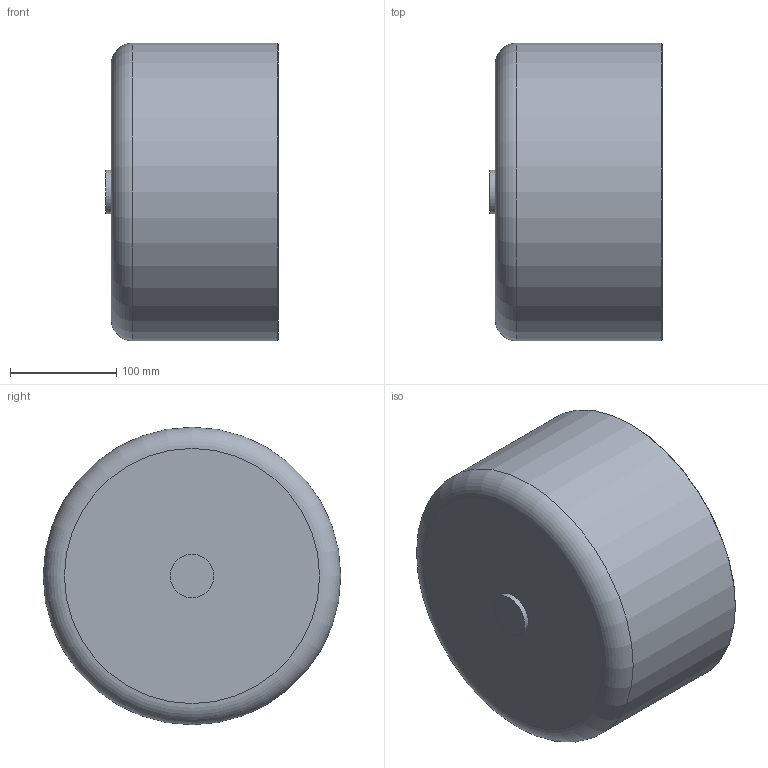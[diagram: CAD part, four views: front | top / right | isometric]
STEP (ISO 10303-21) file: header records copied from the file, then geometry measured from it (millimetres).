
FILE_DESCRIPTION(/* description */ ('Unknown'),/* implementation_level */ '2;1');
FILE_NAME(/* name */ 'CAP280H',/* time_stamp */ '2022-04-01T15:55:47+02:00',/* author */ ('Unknown'),/* organization */ ('Unknown'),/* preprocessor_version */ 'ST-DEVELOPER v18.1',/* originating_system */ 'Solid Edge',/* authorisation */ 'Unknown');
FILE_SCHEMA (('AUTOMOTIVE_DESIGN {1 0 10303 214 3 1 1}'));
Length unit declared in the file: millimetre
Products named in the file (1): CAP280H
Bounding box: 162 x 280 x 280 mm (x, y, z)
Volume: 5942057.7 mm3; surface area: 323073.3 mm2
Topology: 1 solids, 1 shells, 10 faces, 16 edges, 10 vertices
Faces by surface type: plane 4, cylinder 3, torus 2, cone 1
Full cylindrical faces by diameter (mm): 41 x1, 203.4 x1, 280 x1
Entity records: 224 total; most frequent: DIRECTION 40, CARTESIAN_POINT 29, AXIS2_PLACEMENT_3D 20, ORIENTED_EDGE 18, EDGE_LOOP 18, FACE_BOUND 18, ADVANCED_FACE 10, EDGE_CURVE 9
